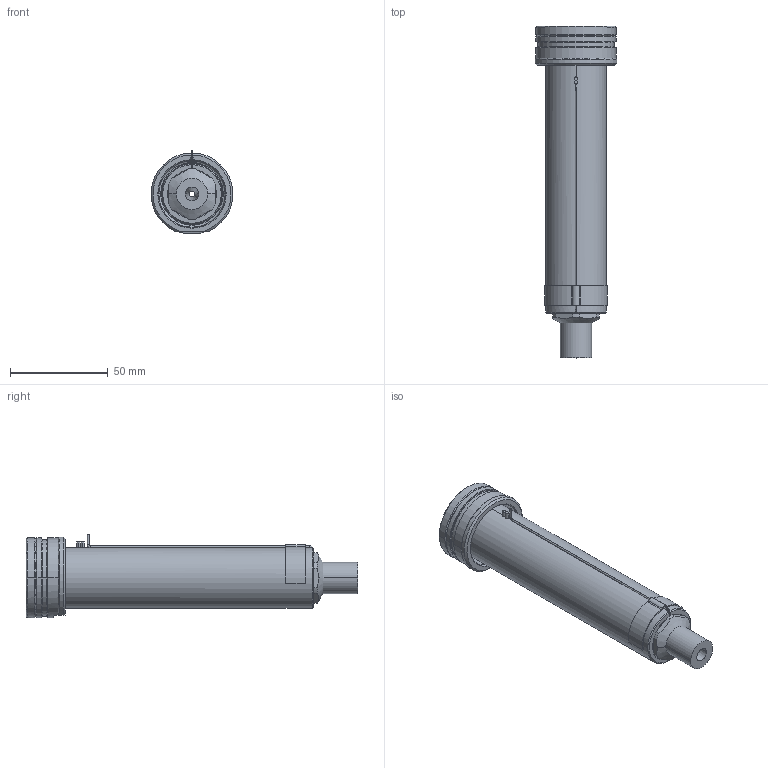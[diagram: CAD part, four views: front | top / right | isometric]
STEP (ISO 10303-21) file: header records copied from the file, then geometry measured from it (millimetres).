
FILE_DESCRIPTION((''),'2;1');
FILE_NAME('EO12_SG_ESG_140_SW','2024-02-19T12:31:08',('sundharh'),(''),'CREO PARAMETRIC BY PTC INC, 2023154','CREO PARAMETRIC BY PTC INC, 2023154','');
FILE_SCHEMA(('CONFIG_CONTROL_DESIGN'));
Length unit declared in the file: millimetre
Products named in the file (1): EO12_SG_ESG_140_SW
Bounding box: 41.85 x 170 x 43 mm (x, y, z)
Volume: 108534.7 mm3; surface area: 29102.3 mm2
Topology: 2 solids, 3 shells, 176 faces, 438 edges, 266 vertices
Faces by surface type: cylinder 65, plane 45, cone 33, torus 27, sphere 3, bspline 3
Entity records: 5924 total; most frequent: CARTESIAN_POINT 1644, DIRECTION 948, ORIENTED_EDGE 864, EDGE_CURVE 432, AXIS2_PLACEMENT_3D 396, VERTEX_POINT 266, CIRCLE 223, EDGE_LOOP 192
